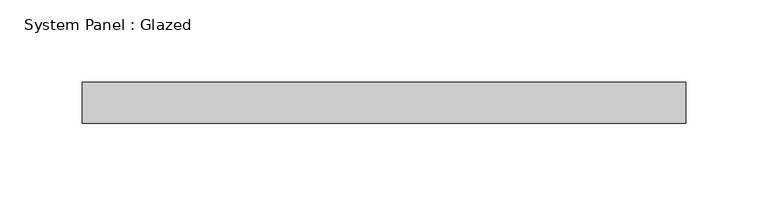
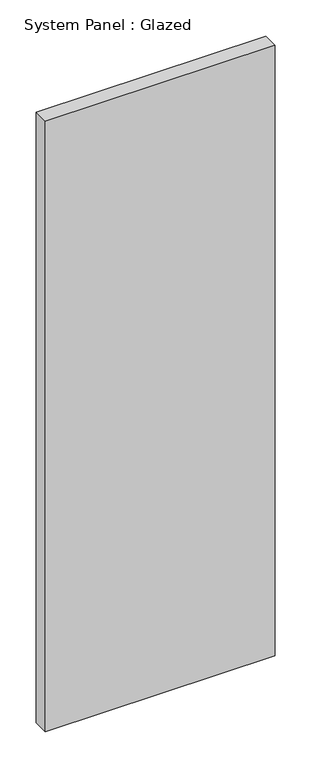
"""IFC4 building model written with IfcOpenShell, lengths in millimetres: plate geometry, System Panel : Glazed."""

from ifc_helpers import new_model, si_unit, origin, origin_with_axes, place, context, project, spatial, polyline, outline, extrude, source, transform, mapped, element, save


def system_panel_glazed_c236d84a(model_context):
    return source(origin(), model_context, "Body", "SweptSolid", [
        extrude(outline(polyline([(183.5786901, -12.5), (-183.5786901, -12.5), (-183.5786901, 12.5), (183.5786901, 12.5), (183.5786901, -12.5)])), origin_with_axes(), (0.0, 0.0, 1.0), 1030.3490056),
    ])


if __name__ == "__main__":
    model = new_model("IFC4")
    model_context = context("Model", 3, world=origin())
    ifc_project = project(units=[si_unit("LENGTHUNIT", "METRE", prefix="MILLI")], contexts=[model_context])
    site = spatial("IfcSite", under=ifc_project)
    building = spatial("IfcBuilding", under=site)
    placement = place(None, origin())
    system_panel_glazed_shape = system_panel_glazed_c236d84a(model_context)
    element("IfcPlate", 1, ObjectType="System Panel : Glazed", at=placement, inside=building, context=model_context, shape_type="MappedRepresentation", body=[
        mapped(system_panel_glazed_shape, transform((0.0, 0.0, 0.0), x_axis=(1.0, 0.0, 0.0), y_axis=(0.0, 1.0, 0.0), z_axis=(0.0, 0.0, 1.0))),
    ])
    save(model, "model.ifc")
